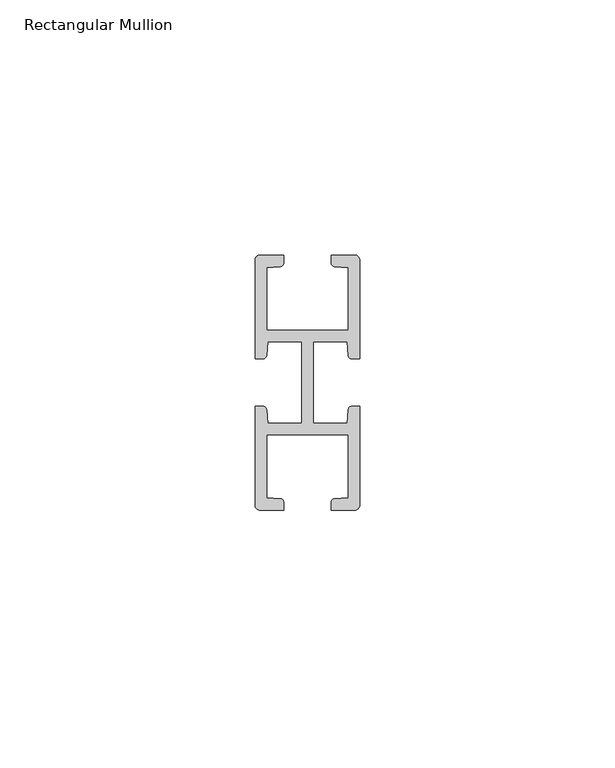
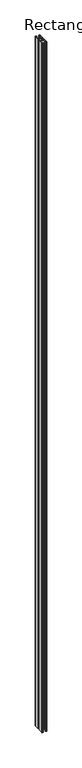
"""IFC4 building model written with IfcOpenShell, lengths in millimetres: member geometry, Rectangular Mullion : RSen_21_CWM_support profile - 21x50 Multi - right_duco projects."""

from ifc_helpers import new_model, si_unit, frame, origin, place, context, project, spatial, circle_curve, source, transform, mapped, element, save
from ifc_brep_helpers import plane_surface, cylinder_surface, advanced_brep


def rectangular_mullion_973fa29d(model_context):
    return source(origin(), model_context, "Body", "AdvancedBrep", [
        advanced_brep(
        [(-70.5, -28.65, 0.0), (-70.5, -48.0, 0.0), (-69.5, -49.0, 0.0), (-64.9, -49.0, 0.0), (-64.9, -47.4527606, 0.0), (-65.5511705, -46.7544657, 0.0), (-68.25, -46.5612795, 0.0), (-68.25, -34.25, 0.0), (-52.25, -34.25, 0.0), (-52.25, -46.5612795, 0.0), (-54.9488295, -46.75, 0.0), (-55.6, -47.4527606, 0.0), (-55.6, -49.0, 0.0), (-51.0, -49.0, 0.0), (-50.0, -48.0, 0.0), (-50.0, -28.65, 0.0), (-51.5472394, -28.65, 0.0), (-52.2455343, -29.3011705, 0.0), (-52.4342548, -32.0, 0.0), (-59.125, -32.0, 0.0), (-59.125, -16.0, 0.0), (-52.4342548, -16.0, 0.0), (-52.2455343, -18.6988295, 0.0), (-51.5472394, -19.35, 0.0), (-50.0, -19.35, 0.0), (-50.0, 0.0, 0.0), (-51.0, 1.0, 0.0), (-55.6, 1.0, 0.0), (-55.6, -0.5472394, 0.0), (-54.9488295, -1.2455343, 0.0), (-52.25, -1.4387205, 0.0), (-52.25, -13.75, 0.0), (-68.25, -13.75, 0.0), (-68.25, -1.4387205, 0.0), (-65.5508597, -1.2499783, 0.0), (-64.9, -0.5472394, 0.0), (-64.9, 1.0, 0.0), (-69.5, 1.0, 0.0), (-70.5, 0.0, 0.0), (-70.5, -19.35, 0.0), (-68.9527606, -19.35, 0.0), (-68.2544657, -18.6988295, 0.0), (-68.0657452, -16.0, 0.0), (-61.375, -16.0, 0.0), (-61.375, -32.0, 0.0), (-68.0657452, -32.0, 0.0), (-68.2544657, -29.3011705, 0.0), (-68.9527606, -28.65, 0.0), (-70.5, -28.65, -3000.0), (-68.9527606, -28.65, -3000.0), (-68.2544657, -29.3011705, -3000.0), (-68.0657452, -32.0, -3000.0), (-61.375, -32.0, -3000.0), (-61.375, -16.0, -3000.0), (-68.0657452, -16.0, -3000.0), (-68.2544657, -18.6988295, -3000.0), (-68.9527606, -19.35, -3000.0), (-70.5, -19.35, -3000.0), (-70.5, 0.0, -3000.0), (-69.5, 1.0, -3000.0), (-64.9, 1.0, -3000.0), (-64.9, -0.5472394, -3000.0), (-65.5511705, -1.2455343, -3000.0), (-68.25, -1.4387205, -3000.0), (-68.25, -13.75, -3000.0), (-52.25, -13.75, -3000.0), (-52.25, -1.4387205, -3000.0), (-54.9491403, -1.2499783, -3000.0), (-55.6, -0.5472394, -3000.0), (-55.6, 1.0, -3000.0), (-51.0, 1.0, -3000.0), (-50.0, 0.0, -3000.0), (-50.0, -19.35, -3000.0), (-51.5472394, -19.35, -3000.0), (-52.2455343, -18.6988295, -3000.0), (-52.4342548, -16.0, -3000.0), (-59.125, -16.0, -3000.0), (-59.125, -32.0, -3000.0), (-52.4342548, -32.0, -3000.0), (-52.2455343, -29.3011705, -3000.0), (-51.5472394, -28.65, -3000.0), (-50.0, -28.65, -3000.0), (-50.0, -48.0, -3000.0), (-51.0, -49.0, -3000.0), (-55.6, -49.0, -3000.0), (-55.6, -47.4527606, -3000.0), (-54.9488295, -46.7544657, -3000.0), (-52.25, -46.5612795, -3000.0), (-52.25, -34.25, -3000.0), (-68.25, -34.25, -3000.0), (-68.25, -46.5612795, -3000.0), (-65.5511705, -46.75, -3000.0), (-64.9, -47.4527606, -3000.0), (-64.9, -49.0, -3000.0), (-69.5, -49.0, -3000.0), (-70.5, -48.0, -3000.0)],
        [
            (0, 1),
            (1, 2, circle_curve(frame((-69.5, -48.0, 0.0), z_axis=(0.0, 0.0, 1.0), x_axis=(-1.0, 0.0, 0.0)), 1.0)),
            (2, 3),
            (3, 4),
            (4, 5, circle_curve(frame((-65.6, -47.4527606, 0.0), z_axis=(0.0, 0.0, 1.0), x_axis=(-1.0, 0.0, 0.0)), 0.7)),
            (5, 6),
            (6, 7),
            (7, 8),
            (8, 9),
            (9, 10),
            (10, 11, circle_curve(frame((-54.9, -47.4527606, 0.0), z_axis=(0.0, 0.0, 1.0), x_axis=(-1.0, 0.0, 0.0)), 0.7)),
            (11, 12),
            (12, 13),
            (13, 14, circle_curve(frame((-51.0, -48.0, 0.0), z_axis=(0.0, 0.0, 1.0), x_axis=(-1.0, 0.0, 0.0)), 1.0)),
            (14, 15),
            (15, 16),
            (16, 17, circle_curve(frame((-51.5472394, -29.35, 0.0), z_axis=(0.0, 0.0, 1.0), x_axis=(-1.0, 0.0, 0.0)), 0.7)),
            (17, 18),
            (18, 19),
            (19, 20),
            (20, 21),
            (21, 22),
            (22, 23, circle_curve(frame((-51.5472394, -18.65, 0.0), z_axis=(0.0, 0.0, 1.0), x_axis=(-1.0, 0.0, 0.0)), 0.7)),
            (23, 24),
            (24, 25),
            (25, 26, circle_curve(frame((-51.0, 0.0, 0.0), z_axis=(0.0, 0.0, 1.0), x_axis=(-1.0, 0.0, 0.0)), 1.0)),
            (26, 27),
            (27, 28),
            (28, 29, circle_curve(frame((-54.9, -0.5472394, 0.0), z_axis=(0.0, 0.0, 1.0), x_axis=(-1.0, 0.0, 0.0)), 0.7)),
            (29, 30),
            (30, 31),
            (31, 32),
            (32, 33),
            (33, 34),
            (34, 35, circle_curve(frame((-65.6, -0.5472394, 0.0), z_axis=(0.0, 0.0, 1.0), x_axis=(-1.0, 0.0, 0.0)), 0.7)),
            (35, 36),
            (36, 37),
            (37, 38, circle_curve(frame((-69.5, 0.0, 0.0), z_axis=(0.0, 0.0, 1.0), x_axis=(-1.0, 0.0, 0.0)), 1.0)),
            (38, 39),
            (39, 40),
            (40, 41, circle_curve(frame((-68.9527606, -18.65, 0.0), z_axis=(0.0, 0.0, 1.0), x_axis=(-1.0, 0.0, 0.0)), 0.7)),
            (41, 42),
            (42, 43),
            (43, 44),
            (44, 45),
            (45, 46),
            (46, 47, circle_curve(frame((-68.9527606, -29.35, 0.0), z_axis=(0.0, 0.0, 1.0), x_axis=(-1.0, 0.0, 0.0)), 0.7)),
            (47, 0),
            (48, 49),
            (49, 50, circle_curve(frame((-68.9527606, -29.35, -3000.0), z_axis=(0.0, 0.0, -1.0), x_axis=(-1.0, 0.0, 0.0)), 0.7)),
            (50, 51),
            (51, 52),
            (52, 53),
            (53, 54),
            (54, 55),
            (55, 56, circle_curve(frame((-68.9527606, -18.65, -3000.0), z_axis=(0.0, 0.0, -1.0), x_axis=(-1.0, 0.0, 0.0)), 0.7)),
            (56, 57),
            (57, 58),
            (58, 59, circle_curve(frame((-69.5, 0.0, -3000.0), z_axis=(0.0, 0.0, -1.0), x_axis=(-1.0, 0.0, 0.0)), 1.0)),
            (59, 60),
            (60, 61),
            (61, 62, circle_curve(frame((-65.6, -0.5472394, -3000.0), z_axis=(0.0, 0.0, -1.0), x_axis=(-1.0, 0.0, 0.0)), 0.7)),
            (62, 63),
            (63, 64),
            (64, 65),
            (65, 66),
            (66, 67),
            (67, 68, circle_curve(frame((-54.9, -0.5472394, -3000.0), z_axis=(0.0, 0.0, -1.0), x_axis=(-1.0, 0.0, 0.0)), 0.7)),
            (68, 69),
            (69, 70),
            (70, 71, circle_curve(frame((-51.0, 0.0, -3000.0), z_axis=(0.0, 0.0, -1.0), x_axis=(-1.0, 0.0, 0.0)), 1.0)),
            (71, 72),
            (72, 73),
            (73, 74, circle_curve(frame((-51.5472394, -18.65, -3000.0), z_axis=(0.0, 0.0, -1.0), x_axis=(-1.0, 0.0, 0.0)), 0.7)),
            (74, 75),
            (75, 76),
            (76, 77),
            (77, 78),
            (78, 79),
            (79, 80, circle_curve(frame((-51.5472394, -29.35, -3000.0), z_axis=(0.0, 0.0, -1.0), x_axis=(-1.0, 0.0, 0.0)), 0.7)),
            (80, 81),
            (81, 82),
            (82, 83, circle_curve(frame((-51.0, -48.0, -3000.0), z_axis=(0.0, 0.0, -1.0), x_axis=(-1.0, 0.0, 0.0)), 1.0)),
            (83, 84),
            (84, 85),
            (85, 86, circle_curve(frame((-54.9, -47.4527606, -3000.0), z_axis=(0.0, 0.0, -1.0), x_axis=(-1.0, 0.0, 0.0)), 0.7)),
            (86, 87),
            (87, 88),
            (88, 89),
            (89, 90),
            (90, 91),
            (91, 92, circle_curve(frame((-65.6, -47.4527606, -3000.0), z_axis=(0.0, 0.0, -1.0), x_axis=(-1.0, 0.0, 0.0)), 0.7)),
            (92, 93),
            (93, 94),
            (94, 95, circle_curve(frame((-69.5, -48.0, -3000.0), z_axis=(0.0, 0.0, -1.0), x_axis=(-1.0, 0.0, 0.0)), 1.0)),
            (95, 48),
            (0, 48),
            (95, 1),
            (14, 82),
            (81, 15),
            (94, 2),
            (93, 3),
            (92, 4),
            (91, 5),
            (90, 6),
            (89, 7),
            (88, 8),
            (87, 9),
            (86, 10),
            (85, 11),
            (84, 12),
            (83, 13),
            (80, 16),
            (79, 17),
            (78, 18),
            (77, 19),
            (76, 20),
            (75, 21),
            (74, 22),
            (73, 23),
            (72, 24),
            (71, 25),
            (70, 26),
            (69, 27),
            (68, 28),
            (67, 29),
            (66, 30),
            (65, 31),
            (64, 32),
            (63, 33),
            (62, 34),
            (61, 35),
            (60, 36),
            (59, 37),
            (58, 38),
            (57, 39),
            (56, 40),
            (55, 41),
            (54, 42),
            (53, 43),
            (52, 44),
            (51, 45),
            (50, 46),
            (49, 47),
        ],
        [
            plane_surface(frame((0.0, -85.4483475, 0.0), z_axis=(0.0, 0.0, 1.0), x_axis=(-1.0, 0.0, 0.0))),
            plane_surface(frame((0.0, -85.4483475, -3000.0), z_axis=(0.0, 0.0, -1.0), x_axis=(-1.0, 0.0, 0.0))),
            plane_surface(frame((-70.5, -28.65, 0.0), z_axis=(-1.0, 0.0, 0.0), x_axis=(0.0, 0.0, -1.0))),
            plane_surface(frame((-50.0, -48.0, 0.0), z_axis=(1.0, 0.0, 0.0), x_axis=(0.0, 0.0, -1.0))),
            cylinder_surface(frame((-69.5, -48.0, 0.0), z_axis=(0.0, 0.0, 1.0), x_axis=(-1.0, 0.0, 0.0)), 1.0),
            plane_surface(frame((-69.5, -49.0, 0.0), z_axis=(0.0, -1.0, 0.0), x_axis=(0.0, 0.0, -1.0))),
            plane_surface(frame((-64.9, -49.0, 0.0), z_axis=(1.0, 0.0, 0.0), x_axis=(0.0, 0.0, -1.0))),
            cylinder_surface(frame((-65.6, -47.4527606, 0.0), z_axis=(0.0, 0.0, 1.0), x_axis=(-1.0, 0.0, 0.0)), 0.7),
            plane_surface(frame((-65.5511705, -46.75, 0.0), z_axis=(0.06975647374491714, 0.9975640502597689, 0.0), x_axis=(0.0, 0.0, -1.0))),
            plane_surface(frame((-68.25, -46.5612795, 0.0), z_axis=(1.0, 0.0, 0.0), x_axis=(0.0, 0.0, -1.0))),
            plane_surface(frame((-68.25, -34.25, 0.0), z_axis=(0.0, -1.0, 0.0), x_axis=(0.0, 0.0, -1.0))),
            plane_surface(frame((-52.25, -34.25, 0.0), z_axis=(-1.0, 0.0, 0.0), x_axis=(0.0, 0.0, -1.0))),
            plane_surface(frame((-52.25, -46.5612795, 0.0), z_axis=(-0.06975647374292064, 0.9975640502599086, 0.0), x_axis=(0.0, 0.0, -1.0))),
            cylinder_surface(frame((-54.9, -47.4527606, 0.0), z_axis=(0.0, 0.0, 1.0), x_axis=(-1.0, 0.0, 0.0)), 0.7),
            plane_surface(frame((-55.6, -47.4527606, 0.0), z_axis=(-1.0, 0.0, 0.0), x_axis=(0.0, 0.0, -1.0))),
            plane_surface(frame((-55.6, -49.0, 0.0), z_axis=(0.0, -1.0, 0.0), x_axis=(0.0, 0.0, -1.0))),
            cylinder_surface(frame((-51.0, -48.0, 0.0), z_axis=(0.0, 0.0, 1.0), x_axis=(-1.0, 0.0, 0.0)), 1.0),
            plane_surface(frame((-50.0, -28.65, 0.0), z_axis=(0.0, 1.0, 0.0), x_axis=(0.0, 0.0, -1.0))),
            cylinder_surface(frame((-51.5472394, -29.35, 0.0), z_axis=(0.0, 0.0, 1.0), x_axis=(-1.0, 0.0, 0.0)), 0.7),
            plane_surface(frame((-52.2455343, -29.3011705, 0.0), z_axis=(-0.9975640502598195, 0.0697564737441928, 0.0), x_axis=(0.0, 0.0, -1.0))),
            plane_surface(frame((-52.4342548, -32.0, 0.0), z_axis=(0.0, 1.0, 0.0), x_axis=(0.0, 0.0, -1.0))),
            plane_surface(frame((-59.125, -32.0, 0.0), z_axis=(1.0, 0.0, 0.0), x_axis=(0.0, 0.0, -1.0))),
            plane_surface(frame((-59.125, -16.0, 0.0), z_axis=(0.0, -1.0, 0.0), x_axis=(0.0, 0.0, -1.0))),
            plane_surface(frame((-52.4342548, -16.0, 0.0), z_axis=(-0.9975640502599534, -0.06975647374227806, 0.0), x_axis=(0.0, 0.0, -1.0))),
            cylinder_surface(frame((-51.5472394, -18.65, 0.0), z_axis=(0.0, 0.0, 1.0), x_axis=(-1.0, 0.0, 0.0)), 0.7),
            plane_surface(frame((-51.5472394, -19.35, 0.0), z_axis=(0.0, -1.0, 0.0), x_axis=(0.0, 0.0, -1.0))),
            plane_surface(frame((-50.0, -19.35, 0.0), z_axis=(1.0, 0.0, 0.0), x_axis=(0.0, 0.0, -1.0))),
            cylinder_surface(frame((-51.0, 0.0, 0.0), z_axis=(0.0, 0.0, 1.0), x_axis=(-1.0, 0.0, 0.0)), 1.0),
            plane_surface(frame((-51.0, 1.0, 0.0), z_axis=(0.0, 1.0, 0.0), x_axis=(0.0, 0.0, -1.0))),
            plane_surface(frame((-55.6, 1.0, 0.0), z_axis=(-1.0, 0.0, 0.0), x_axis=(0.0, 0.0, -1.0))),
            cylinder_surface(frame((-54.9, -0.5472394, 0.0), z_axis=(0.0, 0.0, 1.0), x_axis=(-1.0, 0.0, 0.0)), 0.7),
            plane_surface(frame((-54.9491403, -1.2499783, 0.0), z_axis=(-0.06975647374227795, -0.9975640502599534, 0.0), x_axis=(0.0, 0.0, -1.0))),
            plane_surface(frame((-52.25, -1.4387205, 0.0), z_axis=(-1.0, 0.0, 0.0), x_axis=(0.0, 0.0, -1.0))),
            plane_surface(frame((-52.25, -13.75, 0.0), z_axis=(0.0, 1.0, 0.0), x_axis=(0.0, 0.0, -1.0))),
            plane_surface(frame((-68.25, -13.75, 0.0), z_axis=(1.0, 0.0, 0.0), x_axis=(0.0, 0.0, -1.0))),
            plane_surface(frame((-68.25, -1.4387205, 0.0), z_axis=(0.06975647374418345, -0.9975640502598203, 0.0), x_axis=(0.0, 0.0, -1.0))),
            cylinder_surface(frame((-65.6, -0.5472394, 0.0), z_axis=(0.0, 0.0, 1.0), x_axis=(-1.0, 0.0, 0.0)), 0.7),
            plane_surface(frame((-64.9, -0.5472394, 0.0), z_axis=(1.0, 0.0, 0.0), x_axis=(0.0, 0.0, -1.0))),
            plane_surface(frame((-64.9, 1.0, 0.0), z_axis=(0.0, 1.0, 0.0), x_axis=(0.0, 0.0, -1.0))),
            cylinder_surface(frame((-69.5, 0.0, 0.0), z_axis=(0.0, 0.0, 1.0), x_axis=(-1.0, 0.0, 0.0)), 1.0),
            plane_surface(frame((-70.5, 0.0, 0.0), z_axis=(-1.0, 0.0, 0.0), x_axis=(0.0, 0.0, -1.0))),
            plane_surface(frame((-70.5, -19.35, 0.0), z_axis=(0.0, -1.0, 0.0), x_axis=(0.0, 0.0, -1.0))),
            cylinder_surface(frame((-68.9527606, -18.65, 0.0), z_axis=(0.0, 0.0, 1.0), x_axis=(-1.0, 0.0, 0.0)), 0.7),
            plane_surface(frame((-68.2544657, -18.6988295, 0.0), z_axis=(0.997564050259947, -0.0697564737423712, 0.0), x_axis=(0.0, 0.0, -1.0))),
            plane_surface(frame((-68.0657452, -16.0, 0.0), z_axis=(0.0, -1.0, 0.0), x_axis=(0.0, 0.0, -1.0))),
            plane_surface(frame((-61.375, -16.0, 0.0), z_axis=(-1.0, 0.0, 0.0), x_axis=(0.0, 0.0, -1.0))),
            plane_surface(frame((-61.375, -32.0, 0.0), z_axis=(0.0, 1.0, 0.0), x_axis=(0.0, 0.0, -1.0))),
            plane_surface(frame((-68.0657452, -32.0, 0.0), z_axis=(0.9975640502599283, 0.06975647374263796, 0.0), x_axis=(0.0, 0.0, -1.0))),
            cylinder_surface(frame((-68.9527606, -29.35, 0.0), z_axis=(0.0, 0.0, 1.0), x_axis=(-1.0, 0.0, 0.0)), 0.7),
            plane_surface(frame((-68.9527606, -28.65, 0.0), z_axis=(0.0, 1.0, 0.0), x_axis=(0.0, 0.0, -1.0))),
        ],
        [
            (0, [[1, 2, 3, 4, 5, 6, 7, 8, 9, 10, 11, 12, 13, 14, 15, 16, 17, 18, 19, 20, 21, 22, 23, 24, 25, 26, 27, 28, 29, 30, 31, 32, 33, 34, 35, 36, 37, 38, 39, 40, 41, 42, 43, 44, 45, 46, 47, 48]]),
            (1, [[49, 50, 51, 52, 53, 54, 55, 56, 57, 58, 59, 60, 61, 62, 63, 64, 65, 66, 67, 68, 69, 70, 71, 72, 73, 74, 75, 76, 77, 78, 79, 80, 81, 82, 83, 84, 85, 86, 87, 88, 89, 90, 91, 92, 93, 94, 95, 96]]),
            (2, [[-1, 97, -96, 98]]),
            (3, [[-15, 99, -82, 100]]),
            (4, [[-2, -98, -95, 101]]),
            (5, [[-3, -101, -94, 102]]),
            (6, [[-4, -102, -93, 103]]),
            (7, [[-5, -103, -92, 104]]),
            (8, [[-6, -104, -91, 105]]),
            (9, [[-7, -105, -90, 106]]),
            (10, [[-8, -106, -89, 107]]),
            (11, [[-9, -107, -88, 108]]),
            (12, [[-10, -108, -87, 109]]),
            (13, [[-11, -109, -86, 110]]),
            (14, [[-12, -110, -85, 111]]),
            (15, [[-13, -111, -84, 112]]),
            (16, [[-14, -112, -83, -99]]),
            (17, [[-16, -100, -81, 113]]),
            (18, [[-17, -113, -80, 114]]),
            (19, [[-18, -114, -79, 115]]),
            (20, [[-19, -115, -78, 116]]),
            (21, [[-20, -116, -77, 117]]),
            (22, [[-21, -117, -76, 118]]),
            (23, [[-22, -118, -75, 119]]),
            (24, [[-23, -119, -74, 120]]),
            (25, [[-24, -120, -73, 121]]),
            (26, [[-25, -121, -72, 122]]),
            (27, [[-26, -122, -71, 123]]),
            (28, [[-27, -123, -70, 124]]),
            (29, [[-28, -124, -69, 125]]),
            (30, [[-29, -125, -68, 126]]),
            (31, [[-30, -126, -67, 127]]),
            (32, [[-31, -127, -66, 128]]),
            (33, [[-32, -128, -65, 129]]),
            (34, [[-33, -129, -64, 130]]),
            (35, [[-34, -130, -63, 131]]),
            (36, [[-35, -131, -62, 132]]),
            (37, [[-36, -132, -61, 133]]),
            (38, [[-37, -133, -60, 134]]),
            (39, [[-38, -134, -59, 135]]),
            (40, [[-39, -135, -58, 136]]),
            (41, [[-40, -136, -57, 137]]),
            (42, [[-41, -137, -56, 138]]),
            (43, [[-42, -138, -55, 139]]),
            (44, [[-43, -139, -54, 140]]),
            (45, [[-44, -140, -53, 141]]),
            (46, [[-45, -141, -52, 142]]),
            (47, [[-46, -142, -51, 143]]),
            (48, [[-47, -143, -50, 144]]),
            (49, [[-48, -144, -49, -97]]),
        ],
    ),
    ])


if __name__ == "__main__":
    model = new_model("IFC4")
    model_context = context("Model", 3, world=origin())
    ifc_project = project(units=[si_unit("LENGTHUNIT", "METRE", prefix="MILLI")], contexts=[model_context])
    site = spatial("IfcSite", under=ifc_project)
    building = spatial("IfcBuilding", under=site)
    placement = place(None, origin())
    rectangular_mullion_shape = rectangular_mullion_973fa29d(model_context)
    element("IfcMember", 1, ObjectType="Rectangular Mullion : RSen_21_CWM_support profile - 21x50 Multi - right_duco projects", at=placement, inside=building, context=model_context, shape_type="MappedRepresentation", body=[
        mapped(rectangular_mullion_shape, transform((0.0, 0.0, 0.0), x_axis=(1.0, 0.0, 0.0), y_axis=(0.0, 1.0, 0.0), z_axis=(0.0, 0.0, 1.0))),
    ])
    save(model, "model.ifc")
